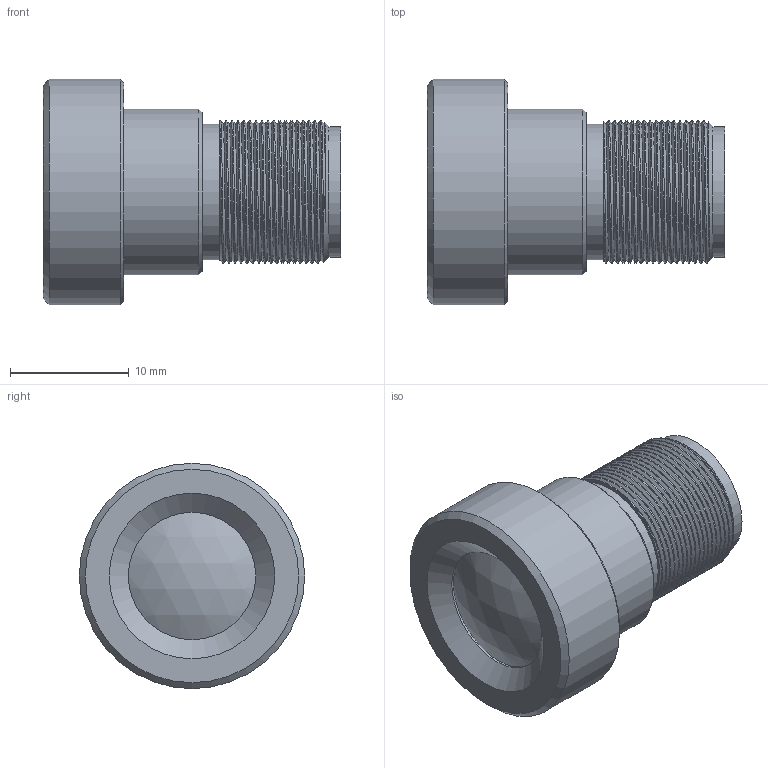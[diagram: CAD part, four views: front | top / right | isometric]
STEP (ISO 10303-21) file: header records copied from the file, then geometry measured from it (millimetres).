
FILE_DESCRIPTION(/* description */ (''),/* implementation_level */ '2;1');
FILE_NAME(/* name */ 'C:\Users\MaxHenkart\Desktop\Commonlands\Product\CIL068\CIL068-F2.5-M12ANIR v2.stp',/* time_stamp */ '2023-01-20T10:23:20-08:00',/* author */ ('MaxHenkart'),/* organization */ (''),/* preprocessor_version */ 'ST-DEVELOPER v19',/* originating_system */ 'Autodesk Inventor 2023',/* authorisation */ '');
FILE_SCHEMA (('AUTOMOTIVE_DESIGN { 1 0 10303 214 3 1 1 }'));
Length unit declared in the file: millimetre
Products named in the file (1): CIL068-F2.5-M12ANIR v2
Bounding box: 25.1 x 19 x 19 mm (x, y, z)
Volume: 2967.9 mm3; surface area: 3485.5 mm2
Topology: 3 solids, 3 shells, 75 faces, 153 edges, 98 vertices
Faces by surface type: cylinder 36, cone 17, plane 17, sphere 3, bspline 2
Full cylindrical faces by diameter (mm): 5.727 x1, 6.5 x1, 7.7 x1, 9 x2, 9.5 x1, 10.74 x1, 11 x1, 11.4 x1, 12 x18, 14 x1, 15.4 x1, 15.5 x1, 16 x1, 16.1 x2, 19 x1
Entity records: 4417 total; most frequent: CARTESIAN_POINT 2822, DIRECTION 318, ORIENTED_EDGE 306, EDGE_CURVE 153, AXIS2_PLACEMENT_3D 133, VERTEX_POINT 98, EDGE_LOOP 91, FACE_OUTER_BOUND 75
